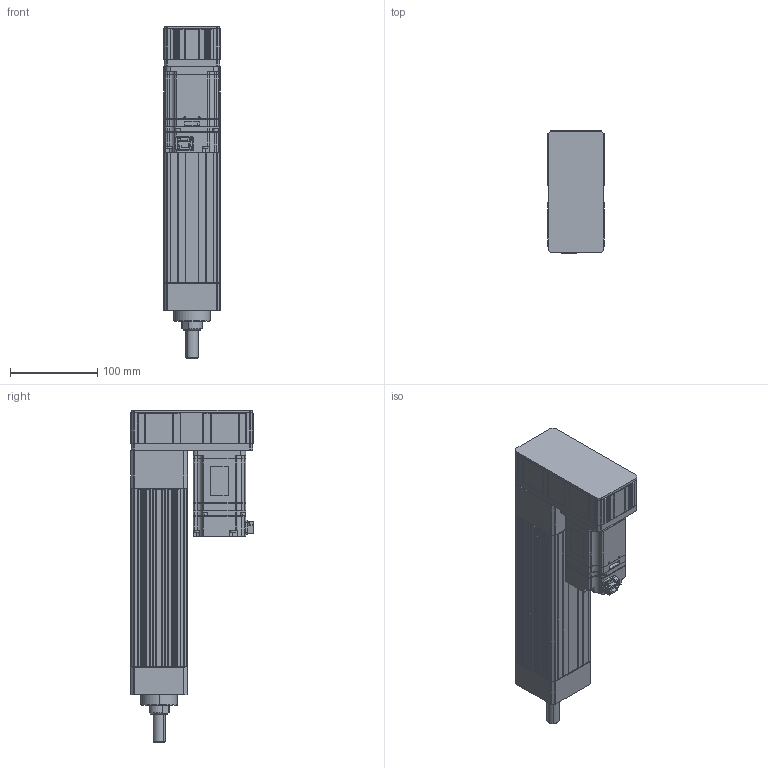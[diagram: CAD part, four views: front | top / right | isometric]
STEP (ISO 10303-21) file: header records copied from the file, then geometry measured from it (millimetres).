
FILE_DESCRIPTION (( 'STEP AP203' ), '1' );
FILE_NAME ('ANS065R-S100-05(10)(20)-W40-M.STEP', '2019-03-03T04:31:48', ( 'user' ), ( '' ), 'SwSTEP 2.0', 'SolidWorks 2013', '' );
FILE_SCHEMA (( 'CONFIG_CONTROL_DESIGN' ));
Length unit declared in the file: millimetre
Products named in the file (4): ANS065R P100 VER2; sgmjv_04a_a21; ANS065 ROD ST100-M; ANS065R-S100-05(10)(20)-W40-M
Assembly tree (3 placements, depth 2):
  ANS065R-S100-05(10)(20)-W40-M
    ANS065R P100 VER2
    sgmjv_04a_a21
    ANS065 ROD ST100-M
Bounding box: 65 x 140.3 x 380 mm (x, y, z)
Volume: 1229395.3 mm3; surface area: 273786.5 mm2
Topology: 3 solids, 7 shells, 1283 faces, 3465 edges, 2248 vertices
Faces by surface type: plane 817, cylinder 380, cone 86
Entity records: 40363 total; most frequent: CARTESIAN_POINT 7232, ORIENTED_EDGE 6898, DIRECTION 6761, EDGE_CURVE 3449, VECTOR 2567, LINE 2567, VERTEX_POINT 2248, AXIS2_PLACEMENT_3D 2097
